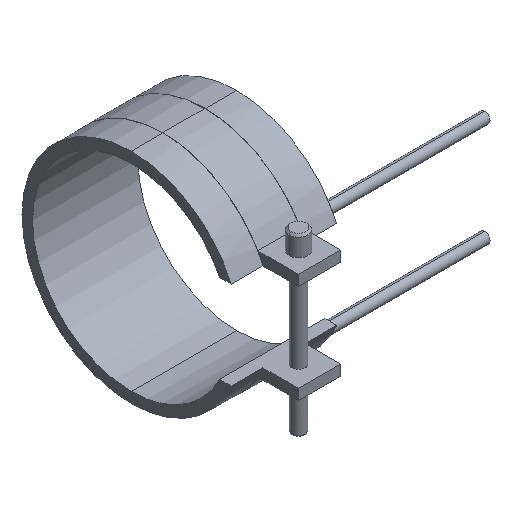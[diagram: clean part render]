
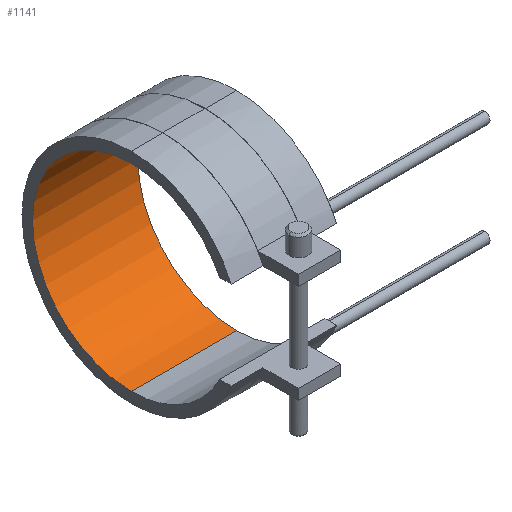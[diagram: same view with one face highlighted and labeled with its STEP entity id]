
A CAD part, isometric view. The second image highlights one B-rep face of the part: STEP entity #1141.
In plain terms, the highlighted cylindrical face has radius 37.5 mm (diameter 75 mm), a partial arc.
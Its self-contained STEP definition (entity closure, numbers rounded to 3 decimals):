
#822=CARTESIAN_POINT('Vertex',(-20.,0.,-37.5)) ;
#829=CARTESIAN_POINT('Vertex',(20.,0.,-37.5)) ;
#832=CARTESIAN_POINT('Line Origine',(20.,0.,-37.5)) ;
#850=CARTESIAN_POINT('Axis2P3D Location',(-20.,0.,0.)) ;
#854=CARTESIAN_POINT('Vertex',(-20.,0.,37.5)) ;
#911=CARTESIAN_POINT('Vertex',(20.,0.,37.5)) ;
#921=CARTESIAN_POINT('Line Origine',(20.,0.,37.5)) ;
#1012=CARTESIAN_POINT('Axis2P3D Location',(20.,0.,0.)) ;
#1130=CARTESIAN_POINT('Axis2P3D Location',(20.,0.,0.)) ;
#833=DIRECTION('Vector Direction',(1.,0.,0.)) ;
#851=DIRECTION('Axis2P3D Direction',(1.,0.,0.)) ;
#922=DIRECTION('Vector Direction',(1.,0.,0.)) ;
#1013=DIRECTION('Axis2P3D Direction',(1.,0.,0.)) ;
#1131=DIRECTION('Axis2P3D Direction',(1.,0.,-0.)) ;
#1132=DIRECTION('Axis2P3D XDirection',(0.,0.,-1.)) ;
#852=AXIS2_PLACEMENT_3D('Circle Axis2P3D',#850,#851,$) ;
#1014=AXIS2_PLACEMENT_3D('Circle Axis2P3D',#1012,#1013,$) ;
#1133=AXIS2_PLACEMENT_3D('Cylinder Axis2P3D',#1130,#1131,#1132) ;
#1136=ORIENTED_EDGE('',*,*,#1016,.T.) ;
#1137=ORIENTED_EDGE('',*,*,#925,.T.) ;
#1138=ORIENTED_EDGE('',*,*,#856,.F.) ;
#1139=ORIENTED_EDGE('',*,*,#836,.T.) ;
#834=VECTOR('Line Direction',#833,1.) ;
#923=VECTOR('Line Direction',#922,1.) ;
#1141=ADVANCED_FACE('14075040',(#1140),#1134,.F.) ;
#853=CIRCLE('generated circle',#852,37.5) ;
#1015=CIRCLE('generated circle',#1014,37.5) ;
#1134=CYLINDRICAL_SURFACE('generated cylinder',#1133,37.5) ;
#836=EDGE_CURVE('',#823,#830,#835,.T.) ;
#856=EDGE_CURVE('',#823,#855,#853,.T.) ;
#925=EDGE_CURVE('',#912,#855,#924,.F.) ;
#1016=EDGE_CURVE('',#830,#912,#1015,.T.) ;
#1135=EDGE_LOOP('',(#1136,#1137,#1138,#1139)) ;
#1140=FACE_OUTER_BOUND('',#1135,.T.) ;
#835=LINE('Line',#832,#834) ;
#924=LINE('Line',#921,#923) ;
#823=VERTEX_POINT('',#822) ;
#830=VERTEX_POINT('',#829) ;
#855=VERTEX_POINT('',#854) ;
#912=VERTEX_POINT('',#911) ;
